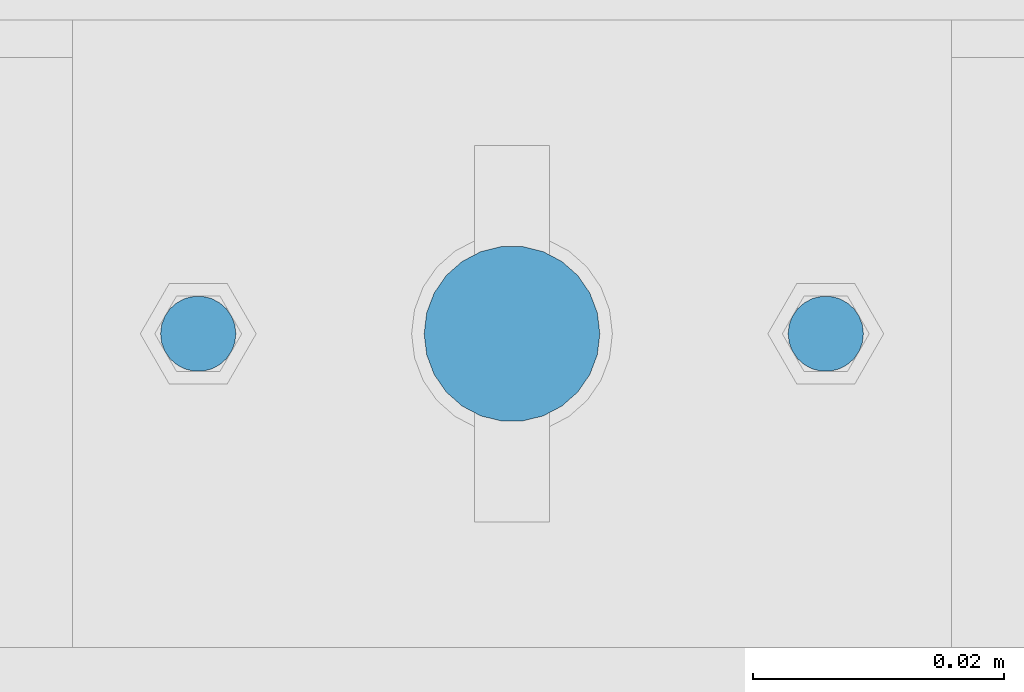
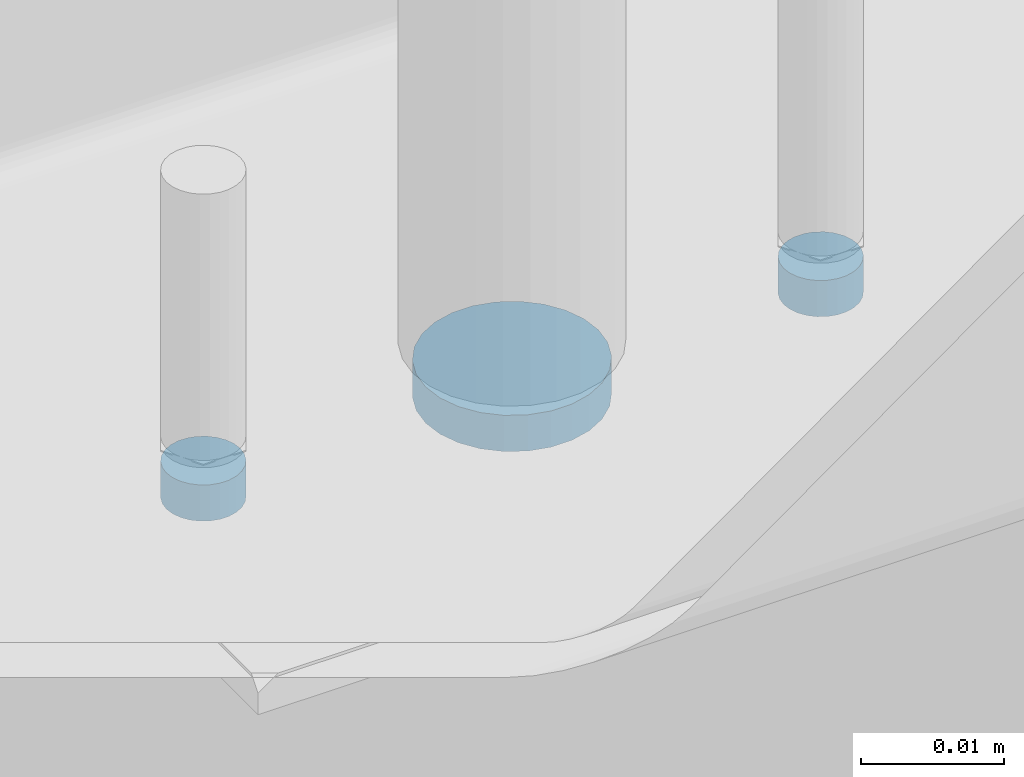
# One storey, part 39 of 91: 3 mechanical fasteners, 1 element without a shape of its own.
"""IFC2X3 building model written with IfcOpenShell, lengths in millimetres."""

from ifc_helpers import new_model, si_unit, frame, origin_with_axes, origin_2d_with_axis, place, context, subcontext, project, spatial, circle, extrude, source, transform, mapped, material, type_object, element, aggregate, save


model = new_model("IFC2X3")

# Units and contexts
model_context = context("Model", 3, precision=1e-05, world=origin_with_axes())
body_context = subcontext(model_context, "Body", "Model", "MODEL_VIEW")
ifc_project = project(units=[si_unit("LENGTHUNIT", "METRE", prefix="MILLI"), si_unit("AREAUNIT", "SQUARE_METRE"), si_unit("VOLUMEUNIT", "CUBIC_METRE"), si_unit("MASSUNIT", "GRAM", prefix="KILO"), si_unit("TIMEUNIT", "SECOND"), si_unit("PLANEANGLEUNIT", "RADIAN"), si_unit("SOLIDANGLEUNIT", "STERADIAN"), si_unit("THERMODYNAMICTEMPERATUREUNIT", "DEGREE_CELSIUS"), si_unit("LUMINOUSINTENSITYUNIT", "LUMEN")], contexts=[model_context])

# Site, building, storey
site_placement = place(None, origin_with_axes())
site = spatial("IfcSite", under=ifc_project, at=site_placement, Name="Undefined", CompositionType="ELEMENT")
building_placement = place(site_placement, origin_with_axes())
building = spatial("IfcBuilding", under=site, at=building_placement, Name="Undefined", CompositionType="ELEMENT")
storey_placement = place(building_placement, origin_with_axes())
storey = spatial("IfcBuildingStorey", under=building, at=storey_placement, Name="Undefined", CompositionType="ELEMENT", Elevation=0.0)

# Assembly, mechanical fasteners
assembly_placement = place(storey_placement, origin_with_axes())
assembly = element("IfcElementAssembly", 1, at=assembly_placement, inside=storey, Name="ROD", AssemblyPlace="NOTDEFINED", PredefinedType="RIGID_FRAME")
ifc_material = material(Name="8.8S")
discrete_accessory_type = type_object("IfcDiscreteAccessoryType", Name="Bolt assembly")
shared_shape_1 = source(origin_with_axes(), body_context, "Body", "SweptSolid", [
    extrude(circle(Radius=3.0, at=origin_2d_with_axis()), frame((0.0, -1.0, 0.0), z_axis=(0.0, 1.0, 0.0), x_axis=(1.0, 0.0, 0.0)), (0.0, 0.0, 1.0), 3.1),
])
mechanical_fastener_1_placement = place(assembly_placement, frame((-113908.34, 87712.15, 3324.0), z_axis=(0.0, 1.0, 0.0), x_axis=(-1.0, 0.0, 0.0)))
mechanical_fastener_1 = element("IfcMechanicalFastener", 2, at=mechanical_fastener_1_placement, type_object=discrete_accessory_type, material=ifc_material, Name="Bolt assembly", NominalDiameter=6.0, NominalLength=3.0, context=body_context, shape_type="MappedRepresentation", body=[
    mapped(shared_shape_1, transform((0.0, 0.0, 0.0))),
])
mechanical_fastener_2_placement = place(assembly_placement, frame((-113958.34, 87712.15, 3324.0), z_axis=(0.0, -1.0, 0.0), x_axis=(1.0, 0.0, 0.0)))
mechanical_fastener_2 = element("IfcMechanicalFastener", 3, at=mechanical_fastener_2_placement, type_object=discrete_accessory_type, material=ifc_material, Name="Bolt assembly", NominalDiameter=6.0, NominalLength=3.0, context=body_context, shape_type="MappedRepresentation", body=[
    mapped(shared_shape_1, transform((0.0, 0.0, 0.0))),
])
shared_shape_2 = source(origin_with_axes(), body_context, "Body", "SweptSolid", [
    extrude(circle(Radius=7.0, at=origin_2d_with_axis()), frame((0.0, -1.0, 0.0), z_axis=(0.0, 1.0, 0.0), x_axis=(1.0, 0.0, 0.0)), (0.0, 0.0, 1.0), 3.1),
])
mechanical_fastener_3_placement = place(assembly_placement, frame((-113933.34, 87712.15, 3324.0), z_axis=(0.0, -1.0, 0.0), x_axis=(1.0, 0.0, 0.0)))
mechanical_fastener_3 = element("IfcMechanicalFastener", 4, at=mechanical_fastener_3_placement, type_object=discrete_accessory_type, material=ifc_material, Name="Bolt assembly", NominalDiameter=12.0, NominalLength=3.0, context=body_context, shape_type="MappedRepresentation", body=[
    mapped(shared_shape_2, transform((0.0, 0.0, 0.0))),
])
aggregate(assembly, [mechanical_fastener_1, mechanical_fastener_2, mechanical_fastener_3])

save(model, "model.ifc")
